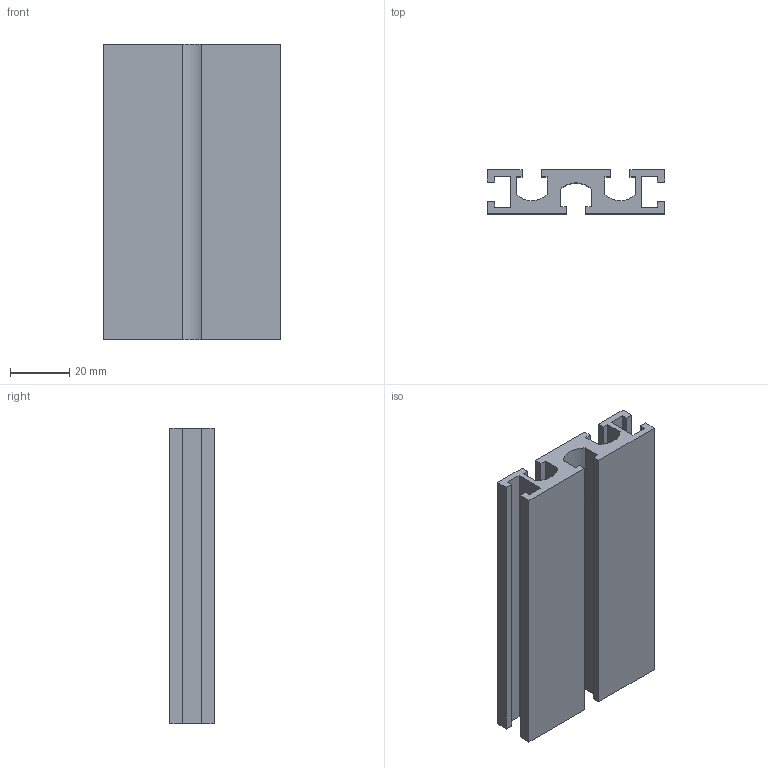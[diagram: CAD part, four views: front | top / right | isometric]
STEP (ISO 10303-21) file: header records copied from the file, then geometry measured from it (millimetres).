
FILE_DESCRIPTION (( 'STEP AP203' ), '1' );
FILE_NAME ('WS1560-6.STEP', '2024-02-17T06:31:26', ( '' ), ( '' ), 'SwSTEP 2.0', 'SolidWorks 2022', '' );
FILE_SCHEMA (( 'CONFIG_CONTROL_DESIGN' ));
Length unit declared in the file: millimetre
Products named in the file (1): WS1560-6
Bounding box: 60 x 15 x 100 mm (x, y, z)
Volume: 47229.4 mm3; surface area: 28497.5 mm2
Topology: 1 solids, 1 shells, 46 faces, 132 edges, 88 vertices
Faces by surface type: plane 43, cylinder 3
Entity records: 1559 total; most frequent: CARTESIAN_POINT 267, ORIENTED_EDGE 264, DIRECTION 232, EDGE_CURVE 132, VECTOR 126, LINE 126, VERTEX_POINT 88, AXIS2_PLACEMENT_3D 53
